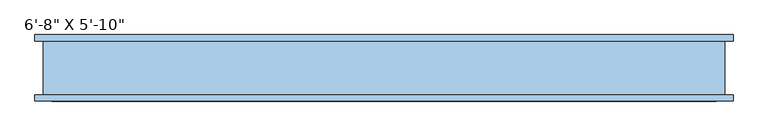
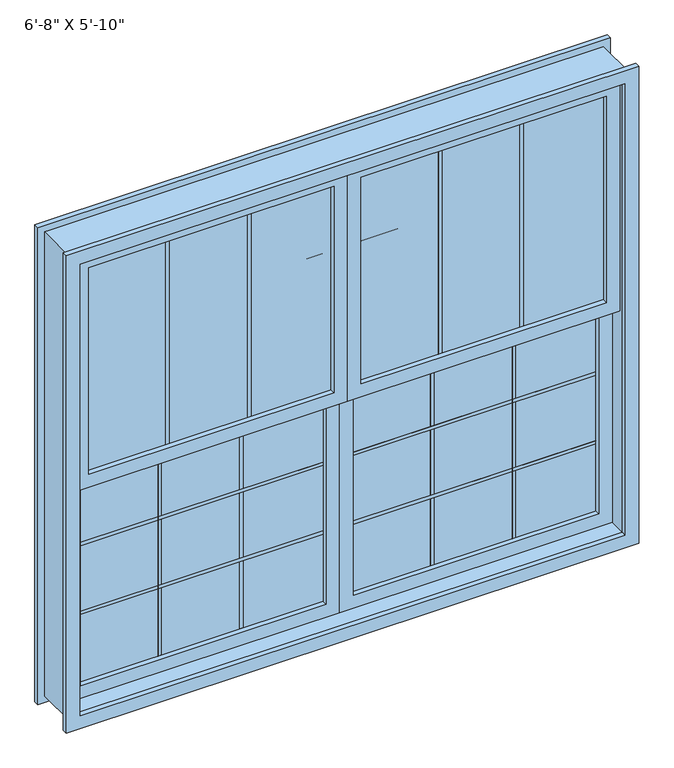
"""IFC4 building model written with IfcOpenShell, lengths in millimetres: window geometry."""

from ifc_helpers import new_model, si_unit, frame, origin, place, context, project, spatial, polyline, outline, extrude, source, transform, mapped, element, save


def window_b70387c5(model_context):
    return source(origin(), model_context, "Body", "SweptSolid", [
        extrude(outline(polyline([(2590.8, 0.0), (1676.4, 0.0), (1676.4, 1016.0), (2590.8, 1016.0), (2590.8, 0.0)]), holes=[polyline([(2540.0, 50.8), (2540.0, 965.2), (1727.2, 965.2), (1727.2, 50.8), (2540.0, 50.8)])]), frame((0.0, -69.85, 0.0), z_axis=(0.0, 1.0, 0.0), x_axis=(0.0, 0.0, 1.0)), (0.0, 0.0, 1.0), 50.8),
        extrude(outline(polyline([(361.95, -38.1), (361.95, -50.8), (349.25, -50.8), (349.25, -38.1), (361.95, -38.1)])), frame((0.0, 0.0, 1727.2), z_axis=(0.0, 0.0, 1.0), x_axis=(1.0, 0.0, 0.0)), (0.0, 0.0, 1.0), 812.8),
        extrude(outline(polyline([(666.75, -38.1), (666.75, -50.8), (654.05, -50.8), (654.05, -38.1), (666.75, -38.1)])), frame((0.0, 0.0, 1727.2), z_axis=(0.0, 0.0, 1.0), x_axis=(1.0, 0.0, 0.0)), (0.0, 0.0, 1.0), 812.8),
        extrude(outline(polyline([(965.2, -38.1), (965.2, -50.8), (50.8, -50.8), (50.8, -38.1), (965.2, -38.1)])), frame((0.0, 0.0, 1727.2), z_axis=(0.0, 0.0, 1.0), x_axis=(1.0, 0.0, 0.0)), (0.0, 0.0, 1.0), 812.8),
        extrude(outline(polyline([(965.2, 12.7), (965.2, 0.0), (50.8, 0.0), (50.8, 12.7), (965.2, 12.7)])), frame((0.0, 0.0, 1399.1166667), z_axis=(0.0, 0.0, 1.0), x_axis=(1.0, 0.0, 0.0)), (0.0, 0.0, 1.0), 12.7),
        extrude(outline(polyline([(965.2, 12.7), (965.2, 0.0), (50.8, 0.0), (50.8, 12.7), (965.2, 12.7)])), frame((0.0, 0.0, 1128.1833333), z_axis=(0.0, 0.0, 1.0), x_axis=(1.0, 0.0, 0.0)), (0.0, 0.0, 1.0), 12.7),
        extrude(outline(polyline([(361.95, 12.7), (361.95, 0.0), (349.25, 0.0), (349.25, 12.7), (361.95, 12.7)])), frame((0.0, 0.0, 863.6), z_axis=(0.0, 0.0, 1.0), x_axis=(1.0, 0.0, 0.0)), (0.0, 0.0, 1.0), 812.8),
        extrude(outline(polyline([(666.75, 12.7), (666.75, 0.0), (654.05, 0.0), (654.05, 12.7), (666.75, 12.7)])), frame((0.0, 0.0, 863.6), z_axis=(0.0, 0.0, 1.0), x_axis=(1.0, 0.0, 0.0)), (0.0, 0.0, 1.0), 812.8),
        extrude(outline(polyline([(965.2, 12.7), (965.2, 0.0), (50.8, 0.0), (50.8, 12.7), (965.2, 12.7)])), frame((0.0, 0.0, 863.6), z_axis=(0.0, 0.0, 1.0), x_axis=(1.0, 0.0, 0.0)), (0.0, 0.0, 1.0), 812.8),
        extrude(outline(polyline([(1727.2, 1016.0), (1727.2, 0.0), (812.8, 0.0), (812.8, 1016.0), (1727.2, 1016.0)]), holes=[polyline([(1676.4, 50.8), (1676.4, 965.2), (863.6, 965.2), (863.6, 50.8), (1676.4, 50.8)])]), frame((0.0, -19.05, 0.0), z_axis=(0.0, 1.0, 0.0), x_axis=(0.0, 0.0, 1.0)), (0.0, 0.0, 1.0), 50.8),
        extrude(outline(polyline([(965.2, -38.1), (965.2, -50.8), (50.8, -50.8), (50.8, -38.1), (965.2, -38.1)])), frame((0.0, 0.0, 2262.7166667), z_axis=(0.0, 0.0, 1.0), x_axis=(1.0, 0.0, 0.0)), (0.0, 0.0, 1.0), 12.7),
        extrude(outline(polyline([(965.2, -38.1), (965.2, -50.8), (50.8, -50.8), (50.8, -38.1), (965.2, -38.1)])), frame((0.0, 0.0, 1991.7833333), z_axis=(0.0, 0.0, 1.0), x_axis=(1.0, 0.0, 0.0)), (0.0, 0.0, 1.0), 12.7),
        extrude(outline(polyline([(2590.8, -1016.0), (1676.4, -1016.0), (1676.4, 0.0), (2590.8, 0.0), (2590.8, -1016.0)]), holes=[polyline([(2540.0, -965.2), (2540.0, -50.8), (1727.2, -50.8), (1727.2, -965.2), (2540.0, -965.2)])]), frame((0.0, -69.85, 0.0), z_axis=(0.0, 1.0, 0.0), x_axis=(0.0, 0.0, 1.0)), (0.0, 0.0, 1.0), 50.8),
        extrude(outline(polyline([(-654.05, -38.1), (-654.05, -50.8), (-666.75, -50.8), (-666.75, -38.1), (-654.05, -38.1)])), frame((0.0, 0.0, 1727.2), z_axis=(0.0, 0.0, 1.0), x_axis=(1.0, 0.0, 0.0)), (0.0, 0.0, 1.0), 812.8),
        extrude(outline(polyline([(-349.25, -38.1), (-349.25, -50.8), (-361.95, -50.8), (-361.95, -38.1), (-349.25, -38.1)])), frame((0.0, 0.0, 1727.2), z_axis=(0.0, 0.0, 1.0), x_axis=(1.0, 0.0, 0.0)), (0.0, 0.0, 1.0), 812.8),
        extrude(outline(polyline([(-50.8, -38.1), (-50.8, -50.8), (-965.2, -50.8), (-965.2, -38.1), (-50.8, -38.1)])), frame((0.0, 0.0, 1727.2), z_axis=(0.0, 0.0, 1.0), x_axis=(1.0, 0.0, 0.0)), (0.0, 0.0, 1.0), 812.8),
        extrude(outline(polyline([(-50.8, 12.7), (-50.8, 0.0), (-965.2, 0.0), (-965.2, 12.7), (-50.8, 12.7)])), frame((0.0, 0.0, 1399.1166667), z_axis=(0.0, 0.0, 1.0), x_axis=(1.0, 0.0, 0.0)), (0.0, 0.0, 1.0), 12.7),
        extrude(outline(polyline([(-50.8, 12.7), (-50.8, 0.0), (-965.2, 0.0), (-965.2, 12.7), (-50.8, 12.7)])), frame((0.0, 0.0, 1128.1833333), z_axis=(0.0, 0.0, 1.0), x_axis=(1.0, 0.0, 0.0)), (0.0, 0.0, 1.0), 12.7),
        extrude(outline(polyline([(-654.05, 12.7), (-654.05, 0.0), (-666.75, 0.0), (-666.75, 12.7), (-654.05, 12.7)])), frame((0.0, 0.0, 863.6), z_axis=(0.0, 0.0, 1.0), x_axis=(1.0, 0.0, 0.0)), (0.0, 0.0, 1.0), 812.8),
        extrude(outline(polyline([(-349.25, 12.7), (-349.25, 0.0), (-361.95, 0.0), (-361.95, 12.7), (-349.25, 12.7)])), frame((0.0, 0.0, 863.6), z_axis=(0.0, 0.0, 1.0), x_axis=(1.0, 0.0, 0.0)), (0.0, 0.0, 1.0), 812.8),
        extrude(outline(polyline([(-50.8, 12.7), (-50.8, 0.0), (-965.2, 0.0), (-965.2, 12.7), (-50.8, 12.7)])), frame((0.0, 0.0, 863.6), z_axis=(0.0, 0.0, 1.0), x_axis=(1.0, 0.0, 0.0)), (0.0, 0.0, 1.0), 812.8),
        extrude(outline(polyline([(1727.2, 0.0), (1727.2, -1016.0), (812.8, -1016.0), (812.8, 0.0), (1727.2, 0.0)]), holes=[polyline([(1676.4, -965.2), (1676.4, -50.8), (863.6, -50.8), (863.6, -965.2), (1676.4, -965.2)])]), frame((0.0, -19.05, 0.0), z_axis=(0.0, 1.0, 0.0), x_axis=(0.0, 0.0, 1.0)), (0.0, 0.0, 1.0), 50.8),
        extrude(outline(polyline([(-50.8, -38.1), (-50.8, -50.8), (-965.2, -50.8), (-965.2, -38.1), (-50.8, -38.1)])), frame((0.0, 0.0, 2262.7166667), z_axis=(0.0, 0.0, 1.0), x_axis=(1.0, 0.0, 0.0)), (0.0, 0.0, 1.0), 12.7),
        extrude(outline(polyline([(-50.8, -38.1), (-50.8, -50.8), (-965.2, -50.8), (-965.2, -38.1), (-50.8, -38.1)])), frame((0.0, 0.0, 1991.7833333), z_axis=(0.0, 0.0, 1.0), x_axis=(1.0, 0.0, 0.0)), (0.0, 0.0, 1.0), 12.7),
        extrude(outline(polyline([(2641.6, -1066.8), (762.0, -1066.8), (762.0, 1066.8), (2641.6, 1066.8), (2641.6, -1066.8)]), holes=[polyline([(2590.8, -1016.0), (2590.8, 1016.0), (812.8, 1016.0), (812.8, -1016.0), (2590.8, -1016.0)])]), frame((0.0, 82.55, 0.0), z_axis=(0.0, 1.0, 0.0), x_axis=(0.0, 0.0, 1.0)), (0.0, 0.0, 1.0), 19.05),
        extrude(outline(polyline([(2641.6, -1066.8), (762.0, -1066.8), (762.0, 1066.8), (2641.6, 1066.8), (2641.6, -1066.8)]), holes=[polyline([(2590.8, -1016.0), (2590.8, 1016.0), (812.8, 1016.0), (812.8, -1016.0), (2590.8, -1016.0)])]), frame((0.0, -101.6, 0.0), z_axis=(0.0, 1.0, 0.0), x_axis=(0.0, 0.0, 1.0)), (0.0, 0.0, 1.0), 19.05),
        extrude(outline(polyline([(2616.2, 1041.4), (2616.2, -1041.4), (787.4, -1041.4), (787.4, 1041.4), (2616.2, 1041.4)]), holes=[polyline([(2590.8, -1016.0), (2590.8, 1016.0), (812.8, 1016.0), (812.8, -1016.0), (2590.8, -1016.0)])]), frame((0.0, -82.55, 0.0), z_axis=(0.0, 1.0, 0.0), x_axis=(0.0, 0.0, 1.0)), (0.0, 0.0, 1.0), 165.1),
    ])


if __name__ == "__main__":
    model = new_model("IFC4")
    model_context = context("Model", 3, world=origin())
    ifc_project = project(units=[si_unit("LENGTHUNIT", "METRE", prefix="MILLI")], contexts=[model_context])
    site = spatial("IfcSite", under=ifc_project)
    building = spatial("IfcBuilding", under=site)
    placement = place(None, origin())
    window_shape = window_b70387c5(model_context)
    element("IfcWindow", 1, ObjectType="C_Double Window Guilotine : 6'-8\" X 5'-10\"", at=placement, inside=building, context=model_context, shape_type="MappedRepresentation", body=[
        mapped(window_shape, transform((0.0, 0.0, 0.0), x_axis=(1.0, 0.0, 0.0), y_axis=(0.0, 1.0, 0.0), z_axis=(0.0, 0.0, 1.0))),
    ])
    save(model, "model.ifc")
